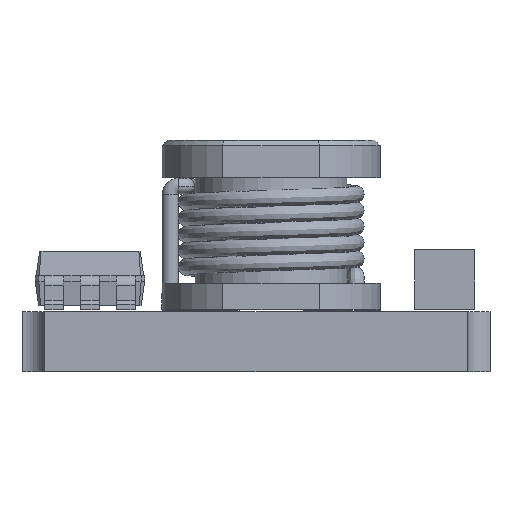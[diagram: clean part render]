
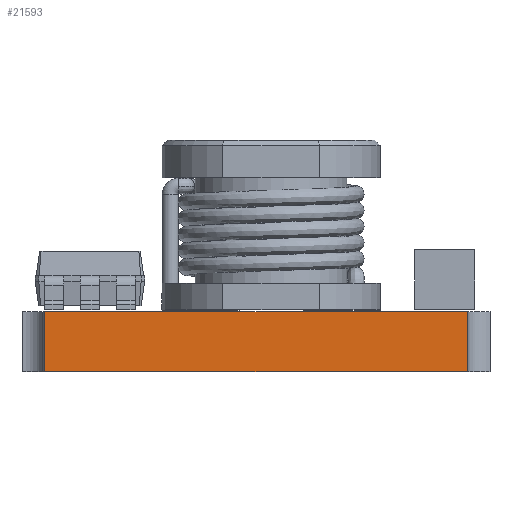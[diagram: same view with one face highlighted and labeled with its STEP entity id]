
A CAD part, front view. The second image highlights one B-rep face of the part: STEP entity #21593.
In plain terms, the highlighted planar face has unit normal (0, -1, 0).
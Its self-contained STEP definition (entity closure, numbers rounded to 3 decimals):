
#21195 = PLANE('',#21196);
#21196 = AXIS2_PLACEMENT_3D('',#21197,#21198,#21199);
#21197 = CARTESIAN_POINT('',(0.,0.,
    1.6));
#21198 = DIRECTION('',(0.,0.,-1.));
#21199 = DIRECTION('',(-1.,0.,0.));
#21254 = PLANE('',#21255);
#21255 = AXIS2_PLACEMENT_3D('',#21256,#21257,#21258);
#21256 = CARTESIAN_POINT('',(0.,0.,
    0.));
#21257 = DIRECTION('',(0.,0.,-1.));
#21258 = DIRECTION('',(-1.,0.,0.));
#21475 = CYLINDRICAL_SURFACE('',#21476,0.6);
#21476 = AXIS2_PLACEMENT_3D('',#21477,#21478,#21479);
#21477 = CARTESIAN_POINT('',(6.2,-6.7,0.));
#21478 = DIRECTION('',(0.,0.,-1.));
#21479 = DIRECTION('',(1.,0.,0.));
#21513 = VERTEX_POINT('',#21514);
#21514 = CARTESIAN_POINT('',(5.6,-6.7,1.6));
#21540 = EDGE_CURVE('',#21541,#21513,#21543,.T.);
#21541 = VERTEX_POINT('',#21542);
#21542 = CARTESIAN_POINT('',(5.6,-6.7,0.));
#21543 = SURFACE_CURVE('',#21544,(#21548,#21555),.PCURVE_S1.);
#21544 = LINE('',#21545,#21546);
#21545 = CARTESIAN_POINT('',(5.6,-6.7,0.));
#21546 = VECTOR('',#21547,1.);
#21547 = DIRECTION('',(0.,0.,1.));
#21548 = PCURVE('',#21475,#21549);
#21549 = DEFINITIONAL_REPRESENTATION('',(#21550),#21554);
#21550 = LINE('',#21551,#21552);
#21551 = CARTESIAN_POINT('',(-3.142,0.));
#21552 = VECTOR('',#21553,1.);
#21553 = DIRECTION('',(0.,-1.));
#21554 = ( GEOMETRIC_REPRESENTATION_CONTEXT(2) 
PARAMETRIC_REPRESENTATION_CONTEXT() REPRESENTATION_CONTEXT('2D SPACE',''
  ) );
#21555 = PCURVE('',#21556,#21561);
#21556 = PLANE('',#21557);
#21557 = AXIS2_PLACEMENT_3D('',#21558,#21559,#21560);
#21558 = CARTESIAN_POINT('',(5.6,-6.7,0.));
#21559 = DIRECTION('',(0.,-1.,0.));
#21560 = DIRECTION('',(-1.,0.,0.));
#21561 = DEFINITIONAL_REPRESENTATION('',(#21562),#21566);
#21562 = LINE('',#21563,#21564);
#21563 = CARTESIAN_POINT('',(0.,0.));
#21564 = VECTOR('',#21565,1.);
#21565 = DIRECTION('',(0.,-1.));
#21566 = ( GEOMETRIC_REPRESENTATION_CONTEXT(2) 
PARAMETRIC_REPRESENTATION_CONTEXT() REPRESENTATION_CONTEXT('2D SPACE',''
  ) );
#21593 = ADVANCED_FACE('',(#21594),#21556,.T.);
#21594 = FACE_BOUND('',#21595,.T.);
#21595 = EDGE_LOOP('',(#21596,#21597,#21620,#21648));
#21596 = ORIENTED_EDGE('',*,*,#21540,.T.);
#21597 = ORIENTED_EDGE('',*,*,#21598,.T.);
#21598 = EDGE_CURVE('',#21513,#21599,#21601,.T.);
#21599 = VERTEX_POINT('',#21600);
#21600 = CARTESIAN_POINT('',(-5.6,-6.7,1.6));
#21601 = SURFACE_CURVE('',#21602,(#21606,#21613),.PCURVE_S1.);
#21602 = LINE('',#21603,#21604);
#21603 = CARTESIAN_POINT('',(5.6,-6.7,1.6));
#21604 = VECTOR('',#21605,1.);
#21605 = DIRECTION('',(-1.,0.,0.));
#21606 = PCURVE('',#21556,#21607);
#21607 = DEFINITIONAL_REPRESENTATION('',(#21608),#21612);
#21608 = LINE('',#21609,#21610);
#21609 = CARTESIAN_POINT('',(0.,-1.6));
#21610 = VECTOR('',#21611,1.);
#21611 = DIRECTION('',(1.,0.));
#21612 = ( GEOMETRIC_REPRESENTATION_CONTEXT(2) 
PARAMETRIC_REPRESENTATION_CONTEXT() REPRESENTATION_CONTEXT('2D SPACE',''
  ) );
#21613 = PCURVE('',#21195,#21614);
#21614 = DEFINITIONAL_REPRESENTATION('',(#21615),#21619);
#21615 = LINE('',#21616,#21617);
#21616 = CARTESIAN_POINT('',(-5.6,-6.7));
#21617 = VECTOR('',#21618,1.);
#21618 = DIRECTION('',(1.,0.));
#21619 = ( GEOMETRIC_REPRESENTATION_CONTEXT(2) 
PARAMETRIC_REPRESENTATION_CONTEXT() REPRESENTATION_CONTEXT('2D SPACE',''
  ) );
#21620 = ORIENTED_EDGE('',*,*,#21621,.F.);
#21621 = EDGE_CURVE('',#21622,#21599,#21624,.T.);
#21622 = VERTEX_POINT('',#21623);
#21623 = CARTESIAN_POINT('',(-5.6,-6.7,0.));
#21624 = SURFACE_CURVE('',#21625,(#21629,#21636),.PCURVE_S1.);
#21625 = LINE('',#21626,#21627);
#21626 = CARTESIAN_POINT('',(-5.6,-6.7,0.));
#21627 = VECTOR('',#21628,1.);
#21628 = DIRECTION('',(0.,0.,1.));
#21629 = PCURVE('',#21556,#21630);
#21630 = DEFINITIONAL_REPRESENTATION('',(#21631),#21635);
#21631 = LINE('',#21632,#21633);
#21632 = CARTESIAN_POINT('',(11.2,0.));
#21633 = VECTOR('',#21634,1.);
#21634 = DIRECTION('',(0.,-1.));
#21635 = ( GEOMETRIC_REPRESENTATION_CONTEXT(2) 
PARAMETRIC_REPRESENTATION_CONTEXT() REPRESENTATION_CONTEXT('2D SPACE',''
  ) );
#21636 = PCURVE('',#21637,#21642);
#21637 = CYLINDRICAL_SURFACE('',#21638,0.6);
#21638 = AXIS2_PLACEMENT_3D('',#21639,#21640,#21641);
#21639 = CARTESIAN_POINT('',(-6.2,-6.7,0.));
#21640 = DIRECTION('',(0.,0.,-1.));
#21641 = DIRECTION('',(1.,0.,0.));
#21642 = DEFINITIONAL_REPRESENTATION('',(#21643),#21647);
#21643 = LINE('',#21644,#21645);
#21644 = CARTESIAN_POINT('',(0.,0.));
#21645 = VECTOR('',#21646,1.);
#21646 = DIRECTION('',(0.,-1.));
#21647 = ( GEOMETRIC_REPRESENTATION_CONTEXT(2) 
PARAMETRIC_REPRESENTATION_CONTEXT() REPRESENTATION_CONTEXT('2D SPACE',''
  ) );
#21648 = ORIENTED_EDGE('',*,*,#21649,.F.);
#21649 = EDGE_CURVE('',#21541,#21622,#21650,.T.);
#21650 = SURFACE_CURVE('',#21651,(#21655,#21662),.PCURVE_S1.);
#21651 = LINE('',#21652,#21653);
#21652 = CARTESIAN_POINT('',(5.6,-6.7,0.));
#21653 = VECTOR('',#21654,1.);
#21654 = DIRECTION('',(-1.,0.,0.));
#21655 = PCURVE('',#21556,#21656);
#21656 = DEFINITIONAL_REPRESENTATION('',(#21657),#21661);
#21657 = LINE('',#21658,#21659);
#21658 = CARTESIAN_POINT('',(0.,0.));
#21659 = VECTOR('',#21660,1.);
#21660 = DIRECTION('',(1.,0.));
#21661 = ( GEOMETRIC_REPRESENTATION_CONTEXT(2) 
PARAMETRIC_REPRESENTATION_CONTEXT() REPRESENTATION_CONTEXT('2D SPACE',''
  ) );
#21662 = PCURVE('',#21254,#21663);
#21663 = DEFINITIONAL_REPRESENTATION('',(#21664),#21668);
#21664 = LINE('',#21665,#21666);
#21665 = CARTESIAN_POINT('',(-5.6,-6.7));
#21666 = VECTOR('',#21667,1.);
#21667 = DIRECTION('',(1.,0.));
#21668 = ( GEOMETRIC_REPRESENTATION_CONTEXT(2) 
PARAMETRIC_REPRESENTATION_CONTEXT() REPRESENTATION_CONTEXT('2D SPACE',''
  ) );
